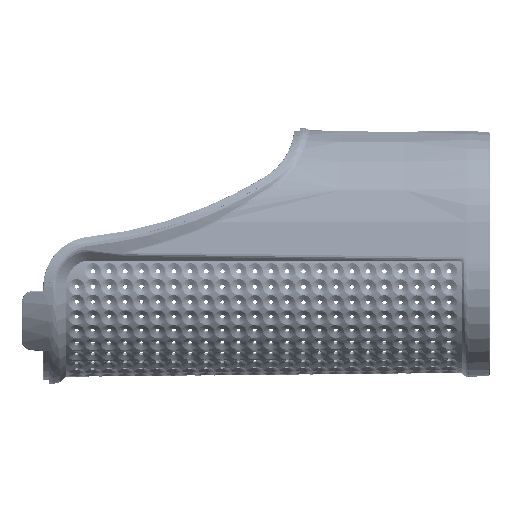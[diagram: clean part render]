
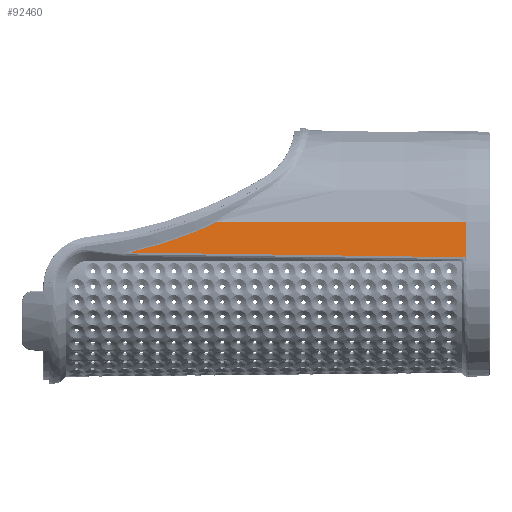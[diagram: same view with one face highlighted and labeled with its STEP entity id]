
A CAD part, top view. The second image highlights one B-rep face of the part: STEP entity #92460.
In plain terms, the highlighted planar face has unit normal (0.004, 0.1, 0.995).
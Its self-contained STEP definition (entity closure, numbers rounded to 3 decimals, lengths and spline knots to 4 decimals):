
#2333 = CARTESIAN_POINT ( 'NONE',  ( 7.874, 0.1861, 1.8517 ) ) ;
#8705 = VERTEX_POINT ( 'NONE', #28330 ) ;
#18004 = DIRECTION ( 'NONE',  ( 1., -0.014, -0.003 ) ) ;
#20407 = EDGE_CURVE ( 'NONE', #8705, #211149, #315971, .T. ) ;
#22199 = ORIENTED_EDGE ( 'NONE', *, *, #516297, .F. ) ;
#28330 = CARTESIAN_POINT ( 'NONE',  ( 3.0239, 0.7054, 1.8207 ) ) ;
#28684 = CARTESIAN_POINT ( 'NONE',  ( 7.7491, 0.1862, 1.8522 ) ) ;
#37647 = CARTESIAN_POINT ( 'NONE',  ( 7.7487, 0.2061, 1.8502 ) ) ;
#44255 = EDGE_CURVE ( 'NONE', #444662, #8705, #582690, .T. ) ;
#47554 = EDGE_CURVE ( 'NONE', #221881, #117341, #174884, .T. ) ;
#51307 = CARTESIAN_POINT ( 'NONE',  ( 7.7493, 0.246, 1.8462 ) ) ;
#55156 = ORIENTED_EDGE ( 'NONE', *, *, #336099, .F. ) ;
#60568 = CARTESIAN_POINT ( 'NONE',  ( 3.2548, 0.8074, 1.8095 ) ) ;
#80099 = ORIENTED_EDGE ( 'NONE', *, *, #238432, .T. ) ;
#92460 = ADVANCED_FACE ( 'NONE', ( #162125 ), #246910, .F. ) ;
#104149 = VERTEX_POINT ( 'NONE', #237431 ) ;
#108768 = CARTESIAN_POINT ( 'NONE',  ( 7.7491, 0.1862, 1.8522 ) ) ;
#112097 = CARTESIAN_POINT ( 'NONE',  ( 7.7687, 0.8682, 1.7836 ) ) ;
#117341 = VERTEX_POINT ( 'NONE', #256115 ) ;
#126538 = DIRECTION ( 'NONE',  ( 1., 0., -0.004 ) ) ;
#128094 = CARTESIAN_POINT ( 'NONE',  ( 7.6909, 0.2468, 1.8464 ) ) ;
#145055 = CARTESIAN_POINT ( 'NONE',  ( 3.3646, 0.8702, 1.8027 ) ) ;
#158986 = LINE ( 'NONE', #376951, #389359 ) ;
#162125 = FACE_OUTER_BOUND ( 'NONE', #334331, .T. ) ;
#173634 = B_SPLINE_CURVE_WITH_KNOTS ( 'NONE', 3,
 ( #575863, #348984, #542373, #128094 ),
 .UNSPECIFIED., .F., .F.,
 ( 4, 4 ),
 ( 0.0012, 0.1501 ),
 .UNSPECIFIED. ) ;
#174884 = LINE ( 'NONE', #2333, #444961 ) ;
#182824 = ORIENTED_EDGE ( 'NONE', *, *, #297273, .T. ) ;
#211149 = VERTEX_POINT ( 'NONE', #239480 ) ;
#219124 = CARTESIAN_POINT ( 'NONE',  ( 7.7493, 0.246, 1.8462 ) ) ;
#220745 = B_SPLINE_CURVE_WITH_KNOTS ( 'NONE', 3,
 ( #219124, #300925, #485390, #37647, #442996, #28684 ),
 .UNSPECIFIED., .F., .F.,
 ( 4, 2, 4 ),
 ( 0., 0.0008, 0.0015 ),
 .UNSPECIFIED. ) ;
#221881 = VERTEX_POINT ( 'NONE', #108768 ) ;
#237431 = CARTESIAN_POINT ( 'NONE',  ( 7.6909, 0.2468, 1.8464 ) ) ;
#238432 = EDGE_CURVE ( 'NONE', #211149, #104149, #173634, .T. ) ;
#239480 = CARTESIAN_POINT ( 'NONE',  ( 1.8294, 0.3306, 1.8636 ) ) ;
#246910 = PLANE ( 'NONE',  #435837 ) ;
#256115 = CARTESIAN_POINT ( 'NONE',  ( 7.7687, 0.1861, 1.8521 ) ) ;
#260350 = VERTEX_POINT ( 'NONE', #112097 ) ;
#268438 = VECTOR ( 'NONE', #18004, 39.3701 ) ;
#273463 = CARTESIAN_POINT ( 'NONE',  ( 1.8294, 0.3306, 1.8636 ) ) ;
#289924 = DIRECTION ( 'NONE',  ( 0., -0.995, 0.1 ) ) ;
#290867 = ORIENTED_EDGE ( 'NONE', *, *, #20407, .T. ) ;
#297273 = EDGE_CURVE ( 'NONE', #104149, #424266, #517154, .T. ) ;
#300925 = CARTESIAN_POINT ( 'NONE',  ( 7.7489, 0.236, 1.8472 ) ) ;
#301229 = CARTESIAN_POINT ( 'NONE',  ( 7.874, 0.8682, 1.7831 ) ) ;
#315971 = B_SPLINE_CURVE_WITH_KNOTS ( 'NONE', 3,
 ( #327744, #597020, #367158, #509227, #512223, #273463 ),
 .UNSPECIFIED., .F., .F.,
 ( 4, 2, 4 ),
 ( 0., 0.0159, 0.0318 ),
 .UNSPECIFIED. ) ;
#318621 = EDGE_CURVE ( 'NONE', #424266, #221881, #220745, .T. ) ;
#327744 = CARTESIAN_POINT ( 'NONE',  ( 3.0239, 0.7054, 1.8207 ) ) ;
#334331 = EDGE_LOOP ( 'NONE', ( #22199, #364736, #290867, #80099, #182824, #542192, #502363, #55156 ) ) ;
#336099 = EDGE_CURVE ( 'NONE', #260350, #117341, #377689, .T. ) ;
#339009 = VECTOR ( 'NONE', #289924, 39.3701 ) ;
#340654 = DIRECTION ( 'NONE',  ( 0., -0.995, 0.1 ) ) ;
#343457 = DIRECTION ( 'NONE',  ( 1., 0., -0.004 ) ) ;
#348984 = CARTESIAN_POINT ( 'NONE',  ( 3.7832, 0.3015, 1.858 ) ) ;
#364736 = ORIENTED_EDGE ( 'NONE', *, *, #44255, .T. ) ;
#367158 = CARTESIAN_POINT ( 'NONE',  ( 2.6333, 0.5567, 1.8374 ) ) ;
#376951 = CARTESIAN_POINT ( 'NONE',  ( 7.874, 0.8682, 1.7831 ) ) ;
#377689 = LINE ( 'NONE', #462427, #339009 ) ;
#378181 = CARTESIAN_POINT ( 'NONE',  ( 3.3646, 0.8702, 1.8027 ) ) ;
#389359 = VECTOR ( 'NONE', #343457, 39.3701 ) ;
#424266 = VERTEX_POINT ( 'NONE', #51307 ) ;
#435837 = AXIS2_PLACEMENT_3D ( 'NONE', #301229, #522150, #340654 ) ;
#442996 = CARTESIAN_POINT ( 'NONE',  ( 7.7489, 0.1961, 1.8512 ) ) ;
#444662 = VERTEX_POINT ( 'NONE', #145055 ) ;
#444961 = VECTOR ( 'NONE', #126538, 39.3701 ) ;
#462427 = CARTESIAN_POINT ( 'NONE',  ( 7.7687, 0.8682, 1.7836 ) ) ;
#477806 = CARTESIAN_POINT ( 'NONE',  ( 3.141, 0.7531, 1.8154 ) ) ;
#485390 = CARTESIAN_POINT ( 'NONE',  ( 7.7487, 0.226, 1.8482 ) ) ;
#502363 = ORIENTED_EDGE ( 'NONE', *, *, #47554, .T. ) ;
#509227 = CARTESIAN_POINT ( 'NONE',  ( 2.2351, 0.4318, 1.8517 ) ) ;
#512223 = CARTESIAN_POINT ( 'NONE',  ( 2.0335, 0.3772, 1.8581 ) ) ;
#516297 = EDGE_CURVE ( 'NONE', #444662, #260350, #158986, .T. ) ;
#517154 = LINE ( 'NONE', #568455, #268438 ) ;
#522150 = DIRECTION ( 'NONE',  ( -0.004, -0.1, -0.995 ) ) ;
#542192 = ORIENTED_EDGE ( 'NONE', *, *, #318621, .T. ) ;
#542373 = CARTESIAN_POINT ( 'NONE',  ( 5.737, 0.2736, 1.8522 ) ) ;
#568455 = CARTESIAN_POINT ( 'NONE',  ( 7.7196, 0.2464, 1.8463 ) ) ;
#568574 = CARTESIAN_POINT ( 'NONE',  ( 3.0239, 0.7054, 1.8207 ) ) ;
#575863 = CARTESIAN_POINT ( 'NONE',  ( 1.8294, 0.3306, 1.8636 ) ) ;
#582690 = B_SPLINE_CURVE_WITH_KNOTS ( 'NONE', 3,
 ( #378181, #60568, #477806, #568574 ),
 .UNSPECIFIED., .F., .F.,
 ( 4, 4 ),
 ( 0., 0.0096 ),
 .UNSPECIFIED. ) ;
#597020 = CARTESIAN_POINT ( 'NONE',  ( 2.8299, 0.627, 1.8295 ) ) ;
